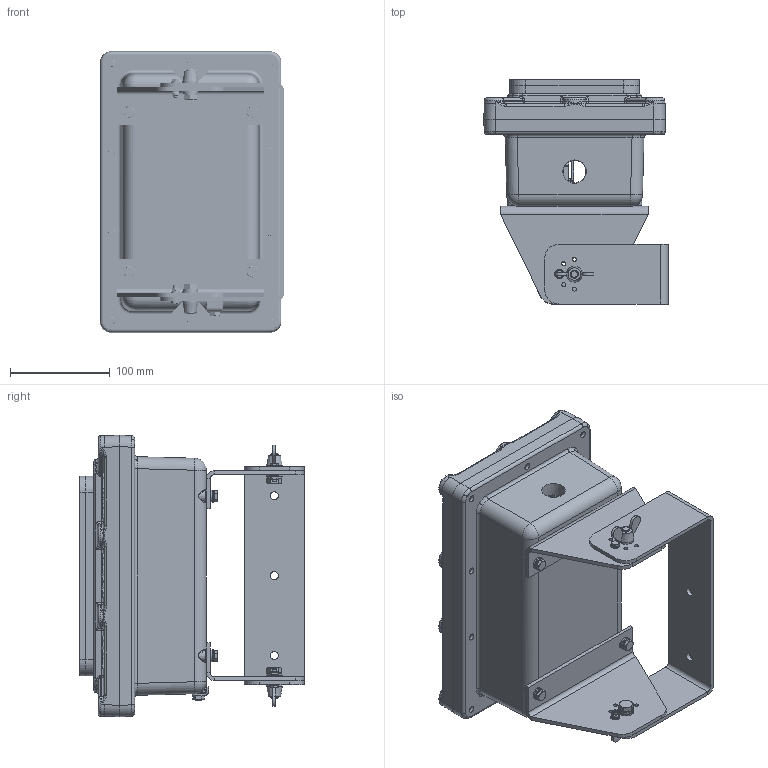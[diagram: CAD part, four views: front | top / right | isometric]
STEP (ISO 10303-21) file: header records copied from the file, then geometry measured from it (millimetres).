
FILE_DESCRIPTION((''),'2;1');
FILE_NAME('C:\Users\L.A.Ronzhin\Desktop\Новая папка (3)\ТЗ 40076\Светильники ГОРЭЛТЕХ\СГУ02+\СГУ02-4960C_У_90.stp','2019-04-11T15:20:50',('L.A.Ronzhin'),(''),'Autodesk Inventor 2012','Autodesk Inventor 2012','');
FILE_SCHEMA(('CONFIG_CONTROL_DESIGN'));
Length unit declared in the file: millimetre
Products named in the file (1): СГУ02-4960C_У_90
Bounding box: 184.75 x 225 x 282 mm (x, y, z)
Surface area: 760490.1 mm2 (no closed solid volume)
Topology: 0 solids, 107 shells, 4262 faces, 10700 edges, 6863 vertices
Faces by surface type: plane 2177, cylinder 762, bspline 707, cone 395, torus 171, sphere 50
Full cylindrical faces by diameter (mm): 2.459 x6, 2.5 x8, 2.693 x4, 2.729 x6, 3 x22, 3.1 x4, 3.242 x2, 3.3 x2, 3.5 x8, 3.621 x4, 4 x24, 4.256 x1, 4.3 x4, 4.9 x12, 4.917 x9, 5.459 x6, 5.5 x4, 5.9 x2, 6 x22, 6.4 x6, 6.5 x6, 6.647 x12, 7 x28, 7.323 x2, 7.9 x3, 8 x19, 8.4 x4, 8.7 x4, 9 x14, 11.34 x12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
Entity records: 168821 total; most frequent: CARTESIAN_POINT 69491, ORIENTED_EDGE 20074, DIRECTION 17638, EDGE_CURVE 10037, VERTEX_POINT 6746, AXIS2_PLACEMENT_3D 5984, VECTOR 5670, LINE 5670
